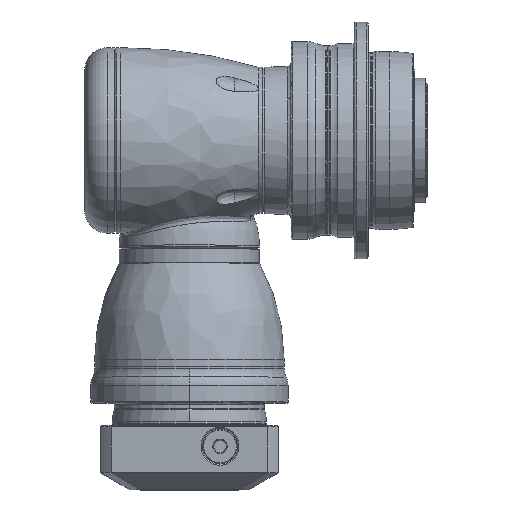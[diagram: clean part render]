
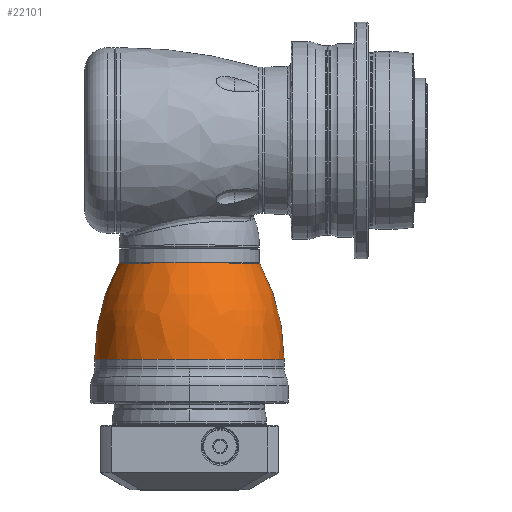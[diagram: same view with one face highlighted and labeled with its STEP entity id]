
A CAD part, top view. The second image highlights one B-rep face of the part: STEP entity #22101.
In plain terms, the highlighted free-form (B-spline) face has degree [3, 3] with [7, 4] control points.
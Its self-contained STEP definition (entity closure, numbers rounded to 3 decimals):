
#21930=CARTESIAN_POINT('',(-3.5,0.,0.));
#21931=DIRECTION('',(1.,0.,0.));
#21932=DIRECTION('',(0.,1.,0.));
#21933=AXIS2_PLACEMENT_3D('',#21930,#21931,#21932);
#21940=CARTESIAN_POINT('',(-52.388,0.,0.));
#21941=DIRECTION('',(-1.,0.,0.));
#21942=DIRECTION('',(0.,-1.,0.));
#21943=AXIS2_PLACEMENT_3D('',#21940,#21941,#21942);
#21945=CARTESIAN_POINT('',(-3.5,-54.29,0.));
#21946=DIRECTION('',(0.,0.,-1.));
#21947=DIRECTION('',(-0.478,0.878,0.));
#21948=AXIS2_PLACEMENT_3D('',#21945,#21946,#21947);
#21950=CARTESIAN_POINT('',(-3.5,54.29,0.));
#21951=DIRECTION('',(0.,0.,1.));
#21952=DIRECTION('',(-0.478,-0.878,0.));
#21953=AXIS2_PLACEMENT_3D('',#21950,#21951,#21952);
#22020=CARTESIAN_POINT('',(-3.5,48.,0.));
#22021=CARTESIAN_POINT('',(-3.5,-48.,0.));
#22022=VERTEX_POINT('',#22020);
#22023=VERTEX_POINT('',#22021);
#22028=CARTESIAN_POINT('',(-52.388,35.561,0.));
#22029=CARTESIAN_POINT('',(-52.388,-35.561,0.));
#22030=VERTEX_POINT('',#22028);
#22031=VERTEX_POINT('',#22029);
#22063=CARTESIAN_POINT('',(-2.481,-47.9,
-3.014));
#22064=CARTESIAN_POINT('',(-20.351,-48.078,
-3.025));
#22065=CARTESIAN_POINT('',(-37.67,-43.68,
-2.748));
#22066=CARTESIAN_POINT('',(-53.281,-35.,
-2.202));
#22067=CARTESIAN_POINT('',(-2.481,-49.755,
26.464));
#22068=CARTESIAN_POINT('',(-20.351,-49.939,
26.562));
#22069=CARTESIAN_POINT('',(-37.67,-45.371,
24.132));
#22070=CARTESIAN_POINT('',(-53.281,-36.355,
19.337));
#22071=CARTESIAN_POINT('',(-2.481,-29.536,
47.995));
#22072=CARTESIAN_POINT('',(-20.351,-29.646,
48.173));
#22073=CARTESIAN_POINT('',(-37.67,-26.934,
43.766));
#22074=CARTESIAN_POINT('',(-53.281,-21.581,
35.069));
#22075=CARTESIAN_POINT('',(-2.481,0.,
47.995));
#22076=CARTESIAN_POINT('',(-20.351,0.,
48.173));
#22077=CARTESIAN_POINT('',(-37.67,0.,
43.766));
#22078=CARTESIAN_POINT('',(-53.281,0.,
35.069));
#22079=CARTESIAN_POINT('',(-2.481,29.536,
47.995));
#22080=CARTESIAN_POINT('',(-20.351,29.646,
48.173));
#22081=CARTESIAN_POINT('',(-37.67,26.934,
43.766));
#22082=CARTESIAN_POINT('',(-53.281,21.581,
35.069));
#22083=CARTESIAN_POINT('',(-2.481,49.755,
26.464));
#22084=CARTESIAN_POINT('',(-20.351,49.939,
26.562));
#22085=CARTESIAN_POINT('',(-37.67,45.371,
24.132));
#22086=CARTESIAN_POINT('',(-53.281,36.355,
19.337));
#22087=CARTESIAN_POINT('',(-2.481,47.9,
-3.014));
#22088=CARTESIAN_POINT('',(-20.351,48.078,
-3.025));
#22089=CARTESIAN_POINT('',(-37.67,43.68,
-2.748));
#22090=CARTESIAN_POINT('',(-53.281,35.,
-2.202));
#22091=(BOUNDED_SURFACE()B_SPLINE_SURFACE(3,3,((#22063,#22064,#22065,#22066),(
#22067,#22068,#22069,#22070),(#22071,#22072,#22073,#22074),(#22075,#22076,
#22077,#22078),(#22079,#22080,#22081,#22082),(#22083,#22084,#22085,#22086),(
#22087,#22088,#22089,#22090)),.UNSPECIFIED.,.F.,.F.,.F.)B_SPLINE_SURFACE_WITH_KNOTS((4,3,4),(4,4),(0.,1.,2.),(0.,1.),.UNSPECIFIED.)GEOMETRIC_REPRESENTATION_ITEM()RATIONAL_B_SPLINE_SURFACE(((1.207,1.181,
1.181,1.207),(0.953,0.932,
0.932,0.953),(0.953,0.932,
0.932,0.953),(1.207,1.181,
1.181,1.207),(0.953,0.932,
0.932,0.953),(0.953,0.932,
0.932,0.953),(1.207,1.181,
1.181,1.207)))REPRESENTATION_ITEM('')SURFACE());
#22093=ORIENTED_EDGE('',*,*,#22092,.T.);
#22095=ORIENTED_EDGE('',*,*,#22094,.T.);
#22096=ORIENTED_EDGE('',*,*,#22053,.T.);
#22098=ORIENTED_EDGE('',*,*,#22097,.F.);
#22099=EDGE_LOOP('',(#22093,#22095,#22096,#22098));
#22100=FACE_OUTER_BOUND('',#22099,.F.);
#22101=ADVANCED_FACE('',(#22100),#22091,.T.);
#21934=CIRCLE('',#21933,48.);
#21944=CIRCLE('',#21943,35.561);
#21949=CIRCLE('',#21948,102.29);
#21954=CIRCLE('',#21953,102.29);
#22053=EDGE_CURVE('',#22022,#22023,#21934,.T.);
#22092=EDGE_CURVE('',#22031,#22030,#21944,.T.);
#22094=EDGE_CURVE('',#22030,#22022,#21949,.T.);
#22097=EDGE_CURVE('',#22031,#22023,#21954,.T.);
